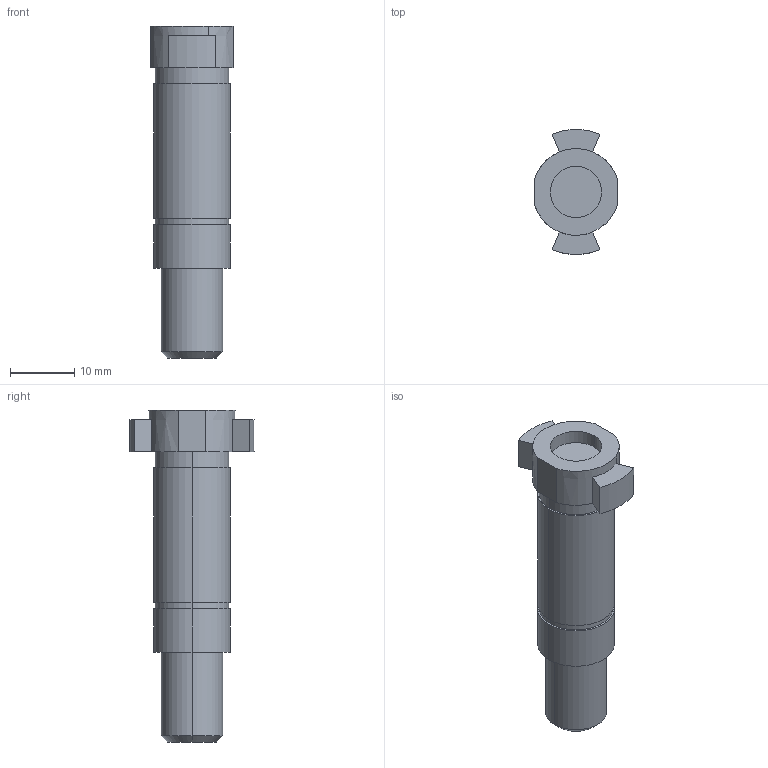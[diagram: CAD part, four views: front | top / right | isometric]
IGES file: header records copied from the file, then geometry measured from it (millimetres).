
Global section: file name: C:\Documents and Settings\Administrator\Desktop\Transfer Temp\transmissionshaft.igs; native system: AutoDesk Inventor R2.0 ; preprocessor: AutoDesk Inventor Iges Exporter R2.0; author: No Author specified; organization: No Organization specified; date: 20011209.130831; units: millimetre
Bounding box: 12.8 x 19.44 x 51.75 mm (x, y, z)
Surface area: 2607.4 mm2 (no closed solid volume)
Topology: 0 solids, 0 shells, 39 faces, 174 edges, 172 vertices
Faces by surface type: bspline 22, revolution 17
